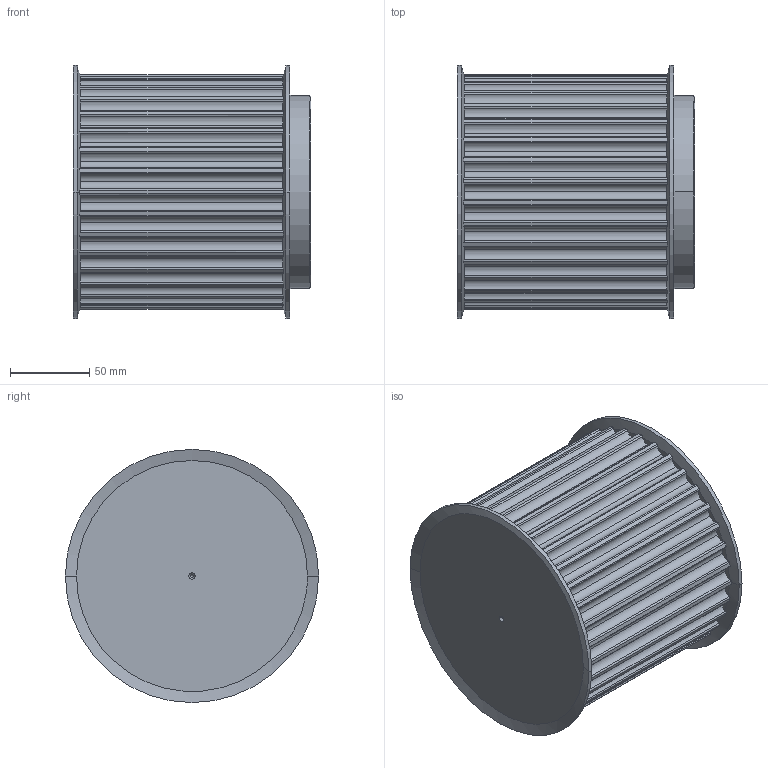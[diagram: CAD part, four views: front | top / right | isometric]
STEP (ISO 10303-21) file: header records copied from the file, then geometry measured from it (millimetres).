
FILE_DESCRIPTION(('STEP AP214'),'1');
FILE_NAME('34_-_14_m_115.stp','2018-07-19T05:32:59',('TraceParts'),('TraceParts S.A.'),'Spatial InterOp 3D',' ',' ');
FILE_SCHEMA(('automotive_design'));
Length unit declared in the file: millimetre
Products named in the file (1): 34_-_14_m_115
Bounding box: 149.88 x 160 x 160 mm (x, y, z)
Volume: 2350115.1 mm3; surface area: 134565.7 mm2
Topology: 1 solids, 1 shells, 269 faces, 784 edges, 516 vertices
Faces by surface type: cylinder 180, plane 71, cone 18
Entity records: 10071 total; most frequent: CARTESIAN_POINT 3198, ORIENTED_EDGE 1560, DIRECTION 1358, EDGE_CURVE 780, AXIS2_PLACEMENT_3D 580, VERTEX_POINT 516, CIRCLE 310, EDGE_LOOP 272
